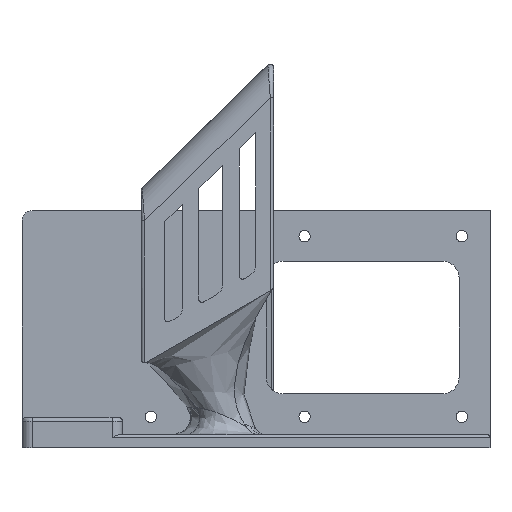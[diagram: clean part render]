
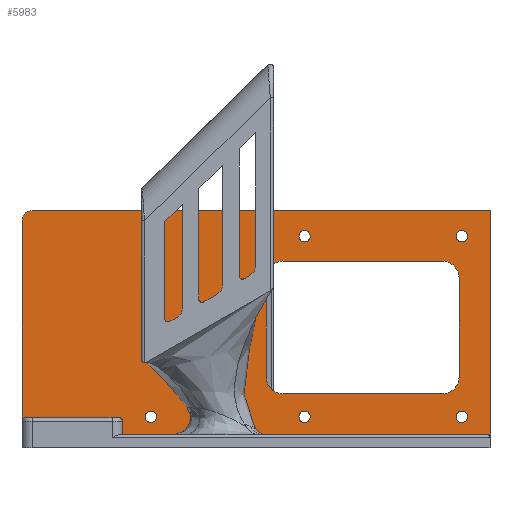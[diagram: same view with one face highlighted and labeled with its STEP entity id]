
A CAD part, front view. The second image highlights one B-rep face of the part: STEP entity #5983.
In plain terms, the highlighted planar face has unit normal (0, -1, 0).
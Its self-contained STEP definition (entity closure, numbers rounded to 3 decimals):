
#395=FACE_BOUND('',#824,.T.);
#396=FACE_BOUND('',#825,.T.);
#397=FACE_BOUND('',#826,.T.);
#398=FACE_BOUND('',#827,.T.);
#399=FACE_BOUND('',#828,.T.);
#400=FACE_BOUND('',#829,.T.);
#401=FACE_BOUND('',#830,.T.);
#402=FACE_BOUND('',#831,.T.);
#461=FACE_OUTER_BOUND('',#823,.T.);
#823=EDGE_LOOP('',(#4007,#4008,#4009,#4010,#4011,#4012));
#824=EDGE_LOOP('',(#4013,#4014,#4015,#4016,#4017,#4018,#4019,#4020));
#825=EDGE_LOOP('',(#4021));
#826=EDGE_LOOP('',(#4022));
#827=EDGE_LOOP('',(#4023));
#828=EDGE_LOOP('',(#4024));
#829=EDGE_LOOP('',(#4025));
#830=EDGE_LOOP('',(#4026));
#831=EDGE_LOOP('',(#4027,#4028,#4029,#4030));
#1251=LINE('',#8942,#1743);
#1252=LINE('',#8944,#1744);
#1253=LINE('',#8946,#1745);
#1254=LINE('',#8949,#1746);
#1255=LINE('',#8952,#1747);
#1256=LINE('',#8956,#1748);
#1257=LINE('',#8960,#1749);
#1258=LINE('',#8964,#1750);
#1259=LINE('',#8980,#1751);
#1260=LINE('',#8982,#1752);
#1261=LINE('',#8984,#1753);
#1262=LINE('',#8985,#1754);
#1743=VECTOR('',#7060,10.);
#1744=VECTOR('',#7061,10.);
#1745=VECTOR('',#7062,10.);
#1746=VECTOR('',#7065,10.);
#1747=VECTOR('',#7066,10.);
#1748=VECTOR('',#7069,10.);
#1749=VECTOR('',#7072,10.);
#1750=VECTOR('',#7075,10.);
#1751=VECTOR('',#7090,10.);
#1752=VECTOR('',#7091,10.);
#1753=VECTOR('',#7092,10.);
#1754=VECTOR('',#7093,10.);
#2235=CIRCLE('',#6361,3.);
#2236=CIRCLE('',#6362,3.);
#2237=CIRCLE('',#6363,5.);
#2238=CIRCLE('',#6364,5.);
#2239=CIRCLE('',#6365,5.);
#2240=CIRCLE('',#6366,5.);
#2241=CIRCLE('',#6367,1.7);
#2242=CIRCLE('',#6368,1.7);
#2243=CIRCLE('',#6369,1.7);
#2244=CIRCLE('',#6370,1.7);
#2245=CIRCLE('',#6371,1.7);
#2246=CIRCLE('',#6372,1.7);
#2511=VERTEX_POINT('',#8938);
#2512=VERTEX_POINT('',#8939);
#2513=VERTEX_POINT('',#8941);
#2514=VERTEX_POINT('',#8943);
#2515=VERTEX_POINT('',#8945);
#2516=VERTEX_POINT('',#8947);
#2517=VERTEX_POINT('',#8950);
#2518=VERTEX_POINT('',#8951);
#2519=VERTEX_POINT('',#8953);
#2520=VERTEX_POINT('',#8955);
#2521=VERTEX_POINT('',#8957);
#2522=VERTEX_POINT('',#8959);
#2523=VERTEX_POINT('',#8961);
#2524=VERTEX_POINT('',#8963);
#2525=VERTEX_POINT('',#8966);
#2526=VERTEX_POINT('',#8968);
#2527=VERTEX_POINT('',#8970);
#2528=VERTEX_POINT('',#8972);
#2529=VERTEX_POINT('',#8974);
#2530=VERTEX_POINT('',#8976);
#2531=VERTEX_POINT('',#8978);
#2532=VERTEX_POINT('',#8979);
#2533=VERTEX_POINT('',#8981);
#2534=VERTEX_POINT('',#8983);
#3087=EDGE_CURVE('',#2511,#2512,#2235,.T.);
#3088=EDGE_CURVE('',#2512,#2513,#1251,.T.);
#3089=EDGE_CURVE('',#2513,#2514,#1252,.T.);
#3090=EDGE_CURVE('',#2514,#2515,#1253,.T.);
#3091=EDGE_CURVE('',#2515,#2516,#2236,.T.);
#3092=EDGE_CURVE('',#2516,#2511,#1254,.T.);
#3093=EDGE_CURVE('',#2517,#2518,#1255,.T.);
#3094=EDGE_CURVE('',#2518,#2519,#2237,.T.);
#3095=EDGE_CURVE('',#2519,#2520,#1256,.T.);
#3096=EDGE_CURVE('',#2520,#2521,#2238,.T.);
#3097=EDGE_CURVE('',#2521,#2522,#1257,.T.);
#3098=EDGE_CURVE('',#2522,#2523,#2239,.T.);
#3099=EDGE_CURVE('',#2523,#2524,#1258,.T.);
#3100=EDGE_CURVE('',#2524,#2517,#2240,.T.);
#3101=EDGE_CURVE('',#2525,#2525,#2241,.T.);
#3102=EDGE_CURVE('',#2526,#2526,#2242,.T.);
#3103=EDGE_CURVE('',#2527,#2527,#2243,.T.);
#3104=EDGE_CURVE('',#2528,#2528,#2244,.T.);
#3105=EDGE_CURVE('',#2529,#2529,#2245,.T.);
#3106=EDGE_CURVE('',#2530,#2530,#2246,.T.);
#3107=EDGE_CURVE('',#2531,#2532,#1259,.T.);
#3108=EDGE_CURVE('',#2532,#2533,#1260,.T.);
#3109=EDGE_CURVE('',#2533,#2534,#1261,.T.);
#3110=EDGE_CURVE('',#2534,#2531,#1262,.T.);
#4007=ORIENTED_EDGE('',*,*,#3087,.T.);
#4008=ORIENTED_EDGE('',*,*,#3088,.T.);
#4009=ORIENTED_EDGE('',*,*,#3089,.T.);
#4010=ORIENTED_EDGE('',*,*,#3090,.T.);
#4011=ORIENTED_EDGE('',*,*,#3091,.T.);
#4012=ORIENTED_EDGE('',*,*,#3092,.T.);
#4013=ORIENTED_EDGE('',*,*,#3093,.T.);
#4014=ORIENTED_EDGE('',*,*,#3094,.T.);
#4015=ORIENTED_EDGE('',*,*,#3095,.T.);
#4016=ORIENTED_EDGE('',*,*,#3096,.T.);
#4017=ORIENTED_EDGE('',*,*,#3097,.T.);
#4018=ORIENTED_EDGE('',*,*,#3098,.T.);
#4019=ORIENTED_EDGE('',*,*,#3099,.T.);
#4020=ORIENTED_EDGE('',*,*,#3100,.T.);
#4021=ORIENTED_EDGE('',*,*,#3101,.T.);
#4022=ORIENTED_EDGE('',*,*,#3102,.T.);
#4023=ORIENTED_EDGE('',*,*,#3103,.T.);
#4024=ORIENTED_EDGE('',*,*,#3104,.T.);
#4025=ORIENTED_EDGE('',*,*,#3105,.T.);
#4026=ORIENTED_EDGE('',*,*,#3106,.T.);
#4027=ORIENTED_EDGE('',*,*,#3107,.T.);
#4028=ORIENTED_EDGE('',*,*,#3108,.T.);
#4029=ORIENTED_EDGE('',*,*,#3109,.T.);
#4030=ORIENTED_EDGE('',*,*,#3110,.T.);
#5847=PLANE('',#6360);
#5983=ADVANCED_FACE('',(#461,#395,#396,#397,#398,#399,#400,#401,#402),#5847,
 .T.);
#6360=AXIS2_PLACEMENT_3D('',#8937,#7056,#7057);
#6361=AXIS2_PLACEMENT_3D('',#8940,#7058,#7059);
#6362=AXIS2_PLACEMENT_3D('',#8948,#7063,#7064);
#6363=AXIS2_PLACEMENT_3D('',#8954,#7067,#7068);
#6364=AXIS2_PLACEMENT_3D('',#8958,#7070,#7071);
#6365=AXIS2_PLACEMENT_3D('',#8962,#7073,#7074);
#6366=AXIS2_PLACEMENT_3D('',#8965,#7076,#7077);
#6367=AXIS2_PLACEMENT_3D('',#8967,#7078,#7079);
#6368=AXIS2_PLACEMENT_3D('',#8969,#7080,#7081);
#6369=AXIS2_PLACEMENT_3D('',#8971,#7082,#7083);
#6370=AXIS2_PLACEMENT_3D('',#8973,#7084,#7085);
#6371=AXIS2_PLACEMENT_3D('',#8975,#7086,#7087);
#6372=AXIS2_PLACEMENT_3D('',#8977,#7088,#7089);
#7056=DIRECTION('center_axis',(0.,-1.,0.));
#7057=DIRECTION('ref_axis',(1.,0.,0.));
#7058=DIRECTION('center_axis',(0.,-1.,0.));
#7059=DIRECTION('ref_axis',(-0.707,0.,-0.707));
#7060=DIRECTION('',(1.,0.,0.));
#7061=DIRECTION('',(0.,0.,1.));
#7062=DIRECTION('',(-1.,0.,0.));
#7063=DIRECTION('center_axis',(0.,-1.,0.));
#7064=DIRECTION('ref_axis',(-0.707,0.,0.707));
#7065=DIRECTION('',(0.,0.,-1.));
#7066=DIRECTION('',(0.,0.,-1.));
#7067=DIRECTION('center_axis',(0.,1.,0.));
#7068=DIRECTION('ref_axis',(0.707,0.,-0.707));
#7069=DIRECTION('',(-1.,0.,0.));
#7070=DIRECTION('center_axis',(0.,1.,0.));
#7071=DIRECTION('ref_axis',(-0.707,0.,-0.707));
#7072=DIRECTION('',(0.,0.,1.));
#7073=DIRECTION('center_axis',(0.,1.,0.));
#7074=DIRECTION('ref_axis',(-0.707,0.,0.707));
#7075=DIRECTION('',(1.,0.,0.));
#7076=DIRECTION('center_axis',(0.,1.,0.));
#7077=DIRECTION('ref_axis',(0.707,0.,0.707));
#7078=DIRECTION('center_axis',(0.,1.,0.));
#7079=DIRECTION('ref_axis',(-1.,0.,0.));
#7080=DIRECTION('center_axis',(0.,1.,0.));
#7081=DIRECTION('ref_axis',(-1.,0.,0.));
#7082=DIRECTION('center_axis',(0.,1.,0.));
#7083=DIRECTION('ref_axis',(-1.,0.,0.));
#7084=DIRECTION('center_axis',(0.,1.,0.));
#7085=DIRECTION('ref_axis',(-1.,0.,0.));
#7086=DIRECTION('center_axis',(0.,1.,0.));
#7087=DIRECTION('ref_axis',(-1.,0.,0.));
#7088=DIRECTION('center_axis',(0.,1.,0.));
#7089=DIRECTION('ref_axis',(-1.,0.,0.));
#7090=DIRECTION('',(0.,0.,1.));
#7091=DIRECTION('',(1.,0.,0.));
#7092=DIRECTION('',(0.,0.,-1.));
#7093=DIRECTION('',(-1.,0.,0.));
#8937=CARTESIAN_POINT('Origin',(-149.951,-58.928,-16.));
#8938=CARTESIAN_POINT('',(-149.951,-58.928,-13.));
#8939=CARTESIAN_POINT('',(-146.951,-58.928,-16.));
#8940=CARTESIAN_POINT('Origin',(-146.951,-58.928,-13.));
#8941=CARTESIAN_POINT('',(-9.951,-58.928,-16.));
#8942=CARTESIAN_POINT('',(-9.951,-58.928,-16.));
#8943=CARTESIAN_POINT('',(-9.951,-58.928,54.));
#8944=CARTESIAN_POINT('',(-9.951,-58.928,-16.));
#8945=CARTESIAN_POINT('',(-146.951,-58.928,54.));
#8946=CARTESIAN_POINT('',(-9.951,-58.928,54.));
#8947=CARTESIAN_POINT('',(-149.951,-58.928,51.));
#8948=CARTESIAN_POINT('Origin',(-146.951,-58.928,51.));
#8949=CARTESIAN_POINT('',(-149.951,-58.928,-16.));
#8950=CARTESIAN_POINT('',(-19.203,-58.928,33.875));
#8951=CARTESIAN_POINT('',(-19.203,-58.928,4.125));
#8952=CARTESIAN_POINT('',(-19.203,-58.928,-8.437));
#8953=CARTESIAN_POINT('',(-24.203,-58.928,-0.875));
#8954=CARTESIAN_POINT('Origin',(-24.203,-58.928,4.125));
#8955=CARTESIAN_POINT('',(-71.859,-58.928,-0.875));
#8956=CARTESIAN_POINT('',(-113.405,-58.928,-0.875));
#8957=CARTESIAN_POINT('',(-76.859,-58.928,4.125));
#8958=CARTESIAN_POINT('Origin',(-71.859,-58.928,4.125));
#8959=CARTESIAN_POINT('',(-76.859,-58.928,33.875));
#8960=CARTESIAN_POINT('',(-76.859,-58.928,11.437));
#8961=CARTESIAN_POINT('',(-71.859,-58.928,38.875));
#8962=CARTESIAN_POINT('Origin',(-71.859,-58.928,33.875));
#8963=CARTESIAN_POINT('',(-24.203,-58.928,38.875));
#8964=CARTESIAN_POINT('',(-84.577,-58.928,38.875));
#8965=CARTESIAN_POINT('Origin',(-24.203,-58.928,33.875));
#8966=CARTESIAN_POINT('',(-109.698,-58.928,-7.706));
#8967=CARTESIAN_POINT('Origin',(-111.398,-58.928,-7.706));
#8968=CARTESIAN_POINT('',(-16.698,-58.928,46.294));
#8969=CARTESIAN_POINT('Origin',(-18.398,-58.928,46.294));
#8970=CARTESIAN_POINT('',(-63.698,-58.928,-7.706));
#8971=CARTESIAN_POINT('Origin',(-65.398,-58.928,-7.706));
#8972=CARTESIAN_POINT('',(-109.698,-58.928,46.294));
#8973=CARTESIAN_POINT('Origin',(-111.398,-58.928,46.294));
#8974=CARTESIAN_POINT('',(-63.698,-58.928,46.294));
#8975=CARTESIAN_POINT('Origin',(-65.398,-58.928,46.294));
#8976=CARTESIAN_POINT('',(-16.698,-58.928,-7.706));
#8977=CARTESIAN_POINT('Origin',(-18.398,-58.928,-7.706));
#8978=CARTESIAN_POINT('',(-92.336,-58.928,18.946));
#8979=CARTESIAN_POINT('',(-92.336,-58.928,18.996));
#8980=CARTESIAN_POINT('',(-92.336,-58.928,1.486));
#8981=CARTESIAN_POINT('',(-81.221,-58.928,18.996));
#8982=CARTESIAN_POINT('',(-118.365,-58.928,18.996));
#8983=CARTESIAN_POINT('',(-81.221,-58.928,18.946));
#8984=CARTESIAN_POINT('',(-81.221,-58.928,1.486));
#8985=CARTESIAN_POINT('',(-118.365,-58.928,18.946));
